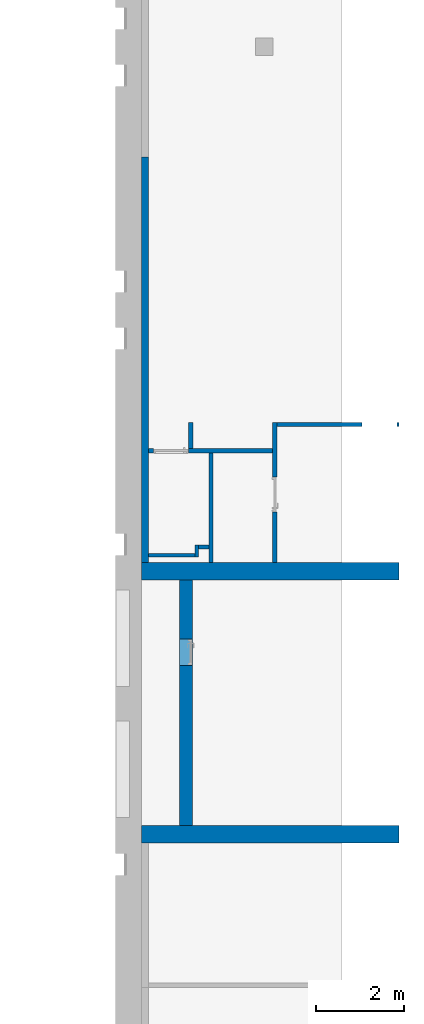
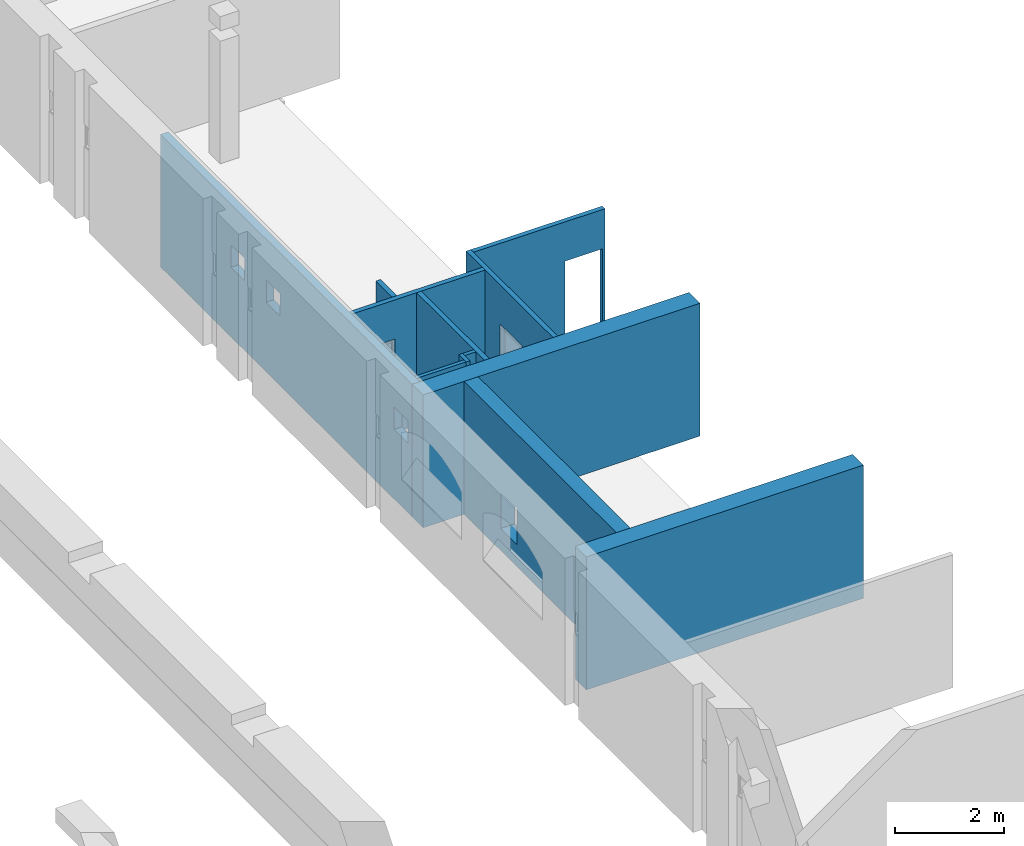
# One storey, part 7 of 11: 12 walls, 19 openings.
"""IFC2X3 building model written with IfcOpenShell, lengths in millimetres."""

from ifc_helpers import new_model, entity, si_unit, converted_unit, derived_unit, direction, frame, frame_2d, origin, origin_2d_with_axis, place, context, subcontext, project, spatial, polyline, circle_curve, parameter, trimmed, segment, composite_curve, rectangle, outline, extrude, clip, bounded_halfspace, material, layer, layer_set, layer_usage, type_object, element, save


model = new_model("IFC2X3")

# Units and contexts
model_context = context("Model", 3, precision=0.01, world=origin(), true_north=direction((6.123031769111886e-17, 1.0)))
body_context = subcontext(model_context, "Body", "Model", "MODEL_VIEW")
ifc_project = project(units=[si_unit("LENGTHUNIT", "METRE", prefix="MILLI"), si_unit("AREAUNIT", "SQUARE_METRE"), si_unit("VOLUMEUNIT", "CUBIC_METRE"), converted_unit("PLANEANGLEUNIT", "DEGREE", entity("IfcPlaneAngleMeasure", 0.017453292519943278), si_unit("PLANEANGLEUNIT", "RADIAN"), dimensions=[0, 0, 0, 0, 0, 0, 0]), si_unit("MASSUNIT", "GRAM", prefix="KILO"), derived_unit("MASSDENSITYUNIT", [(si_unit("MASSUNIT", "GRAM", prefix="KILO"), 1), (si_unit("LENGTHUNIT", "METRE"), -3)]), derived_unit("IONCONCENTRATIONUNIT", [(si_unit("MASSUNIT", "GRAM", prefix="KILO"), 1), (si_unit("LENGTHUNIT", "METRE"), -3)]), derived_unit("MOMENTOFINERTIAUNIT", [(si_unit("LENGTHUNIT", "METRE"), 4)]), si_unit("TIMEUNIT", "SECOND"), si_unit("FREQUENCYUNIT", "HERTZ"), si_unit("THERMODYNAMICTEMPERATUREUNIT", "DEGREE_CELSIUS"), derived_unit("THERMALTRANSMITTANCEUNIT", [(si_unit("MASSUNIT", "GRAM", prefix="KILO"), 1), (si_unit("THERMODYNAMICTEMPERATUREUNIT", "KELVIN"), -1), (si_unit("TIMEUNIT", "SECOND"), -3)]), derived_unit("THERMALCONDUCTANCEUNIT", [(si_unit("MASSUNIT", "GRAM", prefix="KILO"), 1), (si_unit("THERMODYNAMICTEMPERATUREUNIT", "KELVIN"), -1), (si_unit("TIMEUNIT", "SECOND"), -3), (si_unit("LENGTHUNIT", "METRE"), 1)]), derived_unit("VOLUMETRICFLOWRATEUNIT", [(si_unit("LENGTHUNIT", "METRE", prefix="DECI"), 3), (si_unit("TIMEUNIT", "SECOND"), -1)]), derived_unit("MASSFLOWRATEUNIT", [(si_unit("MASSUNIT", "GRAM", prefix="KILO"), 1), (si_unit("TIMEUNIT", "SECOND"), -1)]), derived_unit("ROTATIONALFREQUENCYUNIT", [(si_unit("TIMEUNIT", "SECOND"), -1)]), si_unit("ELECTRICCURRENTUNIT", "AMPERE"), si_unit("ELECTRICVOLTAGEUNIT", "VOLT"), si_unit("POWERUNIT", "WATT"), si_unit("FORCEUNIT", "NEWTON", prefix="KILO"), si_unit("ILLUMINANCEUNIT", "LUX"), si_unit("LUMINOUSFLUXUNIT", "LUMEN"), si_unit("LUMINOUSINTENSITYUNIT", "CANDELA"), si_unit("ENERGYUNIT", "JOULE"), derived_unit("USERDEFINED", [(si_unit("MASSUNIT", "GRAM", prefix="KILO"), -1), (si_unit("LENGTHUNIT", "METRE"), -2), (si_unit("TIMEUNIT", "SECOND"), 3), (si_unit("LUMINOUSFLUXUNIT", "LUMEN"), 1)]), derived_unit("USERDEFINED", [(si_unit("MASSUNIT", "GRAM", prefix="KILO"), 1), (si_unit("TIMEUNIT", "SECOND"), -3), (si_unit("LENGTHUNIT", "METRE"), 3), (si_unit("ELECTRICCURRENTUNIT", "AMPERE"), -2)]), derived_unit("SOUNDPOWERUNIT", [(si_unit("MASSUNIT", "GRAM", prefix="KILO"), 1), (si_unit("TIMEUNIT", "SECOND"), -3), (si_unit("LENGTHUNIT", "METRE"), 2)]), derived_unit("SOUNDPRESSUREUNIT", [(si_unit("MASSUNIT", "GRAM", prefix="KILO"), 1), (si_unit("LENGTHUNIT", "METRE"), -1), (si_unit("TIMEUNIT", "SECOND"), -2)]), derived_unit("LINEARVELOCITYUNIT", [(si_unit("LENGTHUNIT", "METRE"), 1), (si_unit("TIMEUNIT", "SECOND"), -1)]), si_unit("PRESSUREUNIT", "PASCAL"), derived_unit("USERDEFINED", [(si_unit("MASSUNIT", "GRAM", prefix="KILO"), 1), (si_unit("LENGTHUNIT", "METRE"), -2), (si_unit("TIMEUNIT", "SECOND"), -2)]), derived_unit("LINEARFORCEUNIT", [(si_unit("MASSUNIT", "GRAM", prefix="KILO"), 1), (si_unit("TIMEUNIT", "SECOND"), -2)]), derived_unit("PLANARFORCEUNIT", [(si_unit("MASSUNIT", "GRAM", prefix="KILO"), 1), (si_unit("LENGTHUNIT", "METRE"), -1), (si_unit("TIMEUNIT", "SECOND"), -2)]), derived_unit("SPECIFICHEATCAPACITYUNIT", [(si_unit("THERMODYNAMICTEMPERATUREUNIT", "KELVIN"), -1), (si_unit("LENGTHUNIT", "METRE"), 2), (si_unit("TIMEUNIT", "SECOND"), -2)]), derived_unit("HEATFLUXDENSITYUNIT", [(si_unit("MASSUNIT", "GRAM", prefix="KILO"), 1), (si_unit("TIMEUNIT", "SECOND"), -3)]), derived_unit("HEATINGVALUEUNIT", [(si_unit("LENGTHUNIT", "METRE"), 2), (si_unit("TIMEUNIT", "SECOND"), -2)]), derived_unit("VAPORPERMEABILITYUNIT", [(si_unit("LENGTHUNIT", "METRE"), -1), (si_unit("TIMEUNIT", "SECOND"), 1)]), derived_unit("DYNAMICVISCOSITYUNIT", [(si_unit("MASSUNIT", "GRAM", prefix="KILO"), 1), (si_unit("TIMEUNIT", "SECOND"), -1), (si_unit("LENGTHUNIT", "METRE"), -1)]), derived_unit("THERMALEXPANSIONCOEFFICIENTUNIT", [(si_unit("THERMODYNAMICTEMPERATUREUNIT", "KELVIN"), -1)]), derived_unit("MODULUSOFELASTICITYUNIT", [(si_unit("MASSUNIT", "GRAM", prefix="KILO"), 1), (si_unit("LENGTHUNIT", "METRE"), -1), (si_unit("TIMEUNIT", "SECOND"), -2)]), derived_unit("ISOTHERMALMOISTURECAPACITYUNIT", [(si_unit("MASSUNIT", "GRAM", prefix="KILO"), -1), (si_unit("LENGTHUNIT", "METRE"), 3)]), derived_unit("MOISTUREDIFFUSIVITYUNIT", [(si_unit("TIMEUNIT", "SECOND"), -1), (si_unit("LENGTHUNIT", "METRE"), 2)]), derived_unit("MASSPERLENGTHUNIT", [(si_unit("MASSUNIT", "GRAM", prefix="KILO"), 1), (si_unit("LENGTHUNIT", "METRE"), -1)]), derived_unit("THERMALRESISTANCEUNIT", [(si_unit("MASSUNIT", "GRAM", prefix="KILO"), -1), (si_unit("TIMEUNIT", "SECOND"), 3), (si_unit("THERMODYNAMICTEMPERATUREUNIT", "KELVIN"), 1)]), derived_unit("ACCELERATIONUNIT", [(si_unit("LENGTHUNIT", "METRE"), 1), (si_unit("TIMEUNIT", "SECOND"), -2)]), derived_unit("ANGULARVELOCITYUNIT", [(si_unit("TIMEUNIT", "SECOND"), -1), (si_unit("PLANEANGLEUNIT", "RADIAN"), 1)]), derived_unit("LINEARSTIFFNESSUNIT", [(si_unit("MASSUNIT", "GRAM", prefix="KILO"), 1), (si_unit("TIMEUNIT", "SECOND"), -2)]), derived_unit("WARPINGCONSTANTUNIT", [(si_unit("LENGTHUNIT", "METRE"), 6)]), derived_unit("LINEARMOMENTUNIT", [(si_unit("MASSUNIT", "GRAM", prefix="KILO"), 1), (si_unit("LENGTHUNIT", "METRE"), 1), (si_unit("TIMEUNIT", "SECOND"), -2)]), derived_unit("TORQUEUNIT", [(si_unit("MASSUNIT", "GRAM", prefix="KILO"), 1), (si_unit("LENGTHUNIT", "METRE"), 2), (si_unit("TIMEUNIT", "SECOND"), -2)])], contexts=[model_context])

# Site, building, storey
site_placement = place(None, origin())
site = spatial("IfcSite", under=ifc_project, at=site_placement, Name="Default", CompositionType="ELEMENT")
building_placement = place(site_placement, origin())
building = spatial("IfcBuilding", under=site, at=building_placement, Name="Eesti Rahvusraamatukogu hoone renoveerimise projekteerimistööd", CompositionType="ELEMENT")
storey_placement = place(building_placement, frame((0.0, 0.0, -1650.0)))
storey = spatial("IfcBuildingStorey", under=building, at=storey_placement, Name="-1. korrus", CompositionType="ELEMENT", Elevation=-1650.0000000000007)

# Walls
ifc_material_1 = material(Name="ol. olev materjal")
ifc_layer_1 = layer(ifc_material_1, 400.0)
ifc_layer_set_1 = layer_set([ifc_layer_1], Name="Basic Wall:ol. olev - 400mm")
ifc_layer_usage_1 = layer_usage(ifc_layer_set_1, "AXIS2", "NEGATIVE", 200.0)
wall_type_1 = type_object("IfcWallType", Name="Basic Wall:ol. olev - 400mm", PredefinedType="STANDARD", material=ifc_layer_set_1)
wall_1_placement = place(storey_placement, frame((-36190.17342295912, 24430.0, 0.0)))
element("IfcWallStandardCase", 1, at=wall_1_placement, inside=storey, type_object=wall_type_1, material=ifc_layer_usage_1, Name="Basic Wall:ol. olev - 400mm", ObjectType="Basic Wall:ol. olev - 400mm", context=body_context, shape_type="SweptSolid", body=[
    extrude(rectangle(XDim=5880.173422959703, YDim=399.9999999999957, at=frame_2d((2940.0867114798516, -8.526512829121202e-14), x_axis=(-1.0, 0.0))), origin(), (0.0, 0.0, 1.0), 2985.0000000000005),
])
ifc_layer_usage_2 = layer_usage(ifc_layer_set_1, "AXIS2", "NEGATIVE", 200.0)
wall_2_placement = place(storey_placement, frame((-36190.17342295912, 30430.0, 0.0)))
element("IfcWallStandardCase", 2, at=wall_2_placement, inside=storey, type_object=wall_type_1, material=ifc_layer_usage_2, Name="Basic Wall:ol. olev - 400mm", ObjectType="Basic Wall:ol. olev - 400mm", context=body_context, shape_type="SweptSolid", body=[
    extrude(rectangle(XDim=5880.173422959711, YDim=399.9999999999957, at=frame_2d((2940.0867114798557, 1.2789769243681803e-13), x_axis=(-1.0, 0.0))), origin(), (0.0, 0.0, 1.0), 2980.0000000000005),
])

# Wall, opening
ifc_material_2 = material(Name="EST. Müüritis. Väikeplokk. Poorbetoonplokk")
ifc_layer_2 = layer(ifc_material_2, 100.0)
ifc_layer_set_2 = layer_set([ifc_layer_2], Name="Basic Wall:SS-70 - 100 poorbetoon")
ifc_layer_usage_3 = layer_usage(ifc_layer_set_2, "AXIS2", "NEGATIVE", 50.0)
wall_type_2 = type_object("IfcWallType", Name="Basic Wall:SS-70 - 100 poorbetoon", PredefinedType="STANDARD", material=ifc_layer_set_2)
wall_3_placement = place(storey_placement, frame((-36025.17342295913, 33175.44029192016, 0.0)))
wall_3 = element("IfcWallStandardCase", 3, at=wall_3_placement, inside=storey, type_object=wall_type_2, material=ifc_layer_usage_3, Name="Basic Wall:SS-70 - 100 poorbetoon", ObjectType="Basic Wall:SS-70 - 100 poorbetoon", context=body_context, shape_type="Clipping", body=[
    clip(extrude(rectangle(XDim=2824.749790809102, YDim=100.00000000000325, at=frame_2d((1412.374895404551, -7.105427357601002e-15), x_axis=(-1.0, 0.0))), origin(), (0.0, 0.0, 1.0), 2980.000000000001), bounded_halfspace(frame((0.0, -50.0, 2980.0), z_axis=(0.0, 0.0, 1.0), x_axis=(0.0, -1.0, 0.0)), False, frame((0.0, -50.0, 2980.0)), polyline([(0.0, 0.0), (1371.5763678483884, 0.0), (1471.5763678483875, 0.0), (2824.7497908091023, 0.0), (2824.749790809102, 100.0), (1010.0, 100.0), (910.0, 100.0), (0.0, 100.0), (0.0, 0.0)]))),
])
opening_1_placement = place(wall_3_placement, frame((110.0, -50.0, 0.0)))
element("IfcOpeningElement", 4, at=opening_1_placement, cuts=wall_3, Name="SMA_D01, 1-poolne:SU-00 - puituks 800x2100 ventil. lävepakuga:1", ObjectType="Opening", context=body_context, shape_type="SweptSolid", body=[
    extrude(rectangle(XDim=2099.999999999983, YDim=799.9999999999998, at=frame_2d((1049.9999999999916, 400.0000000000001), x_axis=(1.0, 0.0))), frame((0.0, 0.0, 0.0), z_axis=(0.0, 1.0, 0.0), x_axis=(0.0, 0.0, 1.0)), (0.0, 0.0, 1.0), 100.0),
])

ifc_layer_usage_4 = layer_usage(ifc_layer_set_2, "AXIS2", "NEGATIVE", 50.0)
wall_4_placement = place(storey_placement, frame((-33150.42363215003, 33825.44029192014, 0.0), z_axis=(0.0, 0.0, 1.0), x_axis=(0.0, -1.0, 0.0)))
wall_4 = element("IfcWallStandardCase", 5, at=wall_4_placement, inside=storey, type_object=wall_type_2, material=ifc_layer_usage_4, Name="Basic Wall:SS-70 - 100 poorbetoon", ObjectType="Basic Wall:SS-70 - 100 poorbetoon", context=body_context, shape_type="Clipping", body=[
    clip(extrude(rectangle(XDim=3195.4402919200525, YDim=100.00000000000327, at=frame_2d((1597.7201459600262, 6.110667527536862e-13), x_axis=(-1.0, 0.0))), origin(), (0.0, 0.0, 1.0), 2980.0000000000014), bounded_halfspace(frame((0.0, -50.0, 2980.0)), False, frame((0.0, -50.0, 2980.0)), polyline([(0.0, 0.0), (600.0, 0.0), (700.0, 0.0), (3195.440291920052, 0.0), (3195.4402919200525, 100.0), (100.0, 100.0), (0.0, 100.0), (0.0, 0.0)]))),
])
opening_2_placement = place(wall_4_placement, frame((1250.0, -50.0, 0.0)))
element("IfcOpeningElement", 6, at=opening_2_placement, cuts=wall_4, Name="SMA_D01, 1-poolne:SU-00 - 800x2100:1", ObjectType="Opening", context=body_context, shape_type="SweptSolid", body=[
    extrude(rectangle(XDim=2099.999999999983, YDim=799.9999999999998, at=frame_2d((1049.9999999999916, 400.0000000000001), x_axis=(1.0, 0.0))), frame((0.0, 0.0, 0.0), z_axis=(0.0, 1.0, 0.0), x_axis=(0.0, 0.0, 1.0)), (0.0, 0.0, 1.0), 100.0),
])

ifc_layer_usage_5 = layer_usage(ifc_layer_set_2, "AXIS2", "NEGATIVE", 50.0)
wall_5_placement = place(storey_placement, frame((-33100.42363215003, 33775.44029192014, 0.0)))
wall_5 = element("IfcWallStandardCase", 7, at=wall_5_placement, inside=storey, type_object=wall_type_2, material=ifc_layer_usage_5, Name="Basic Wall:SS-70 - 100 poorbetoon", ObjectType="Basic Wall:SS-70 - 100 poorbetoon", context=body_context, shape_type="Clipping", body=[
    clip(extrude(rectangle(XDim=2790.423632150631, YDim=100.00000000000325, at=frame_2d((1395.2118160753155, -9.237055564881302e-14), x_axis=(-1.0, 0.0))), origin(), (0.0, 0.0, 1.0), 2980.0000000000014), bounded_halfspace(frame((0.0, -50.0, 2980.0), z_axis=(0.0, 0.0, 1.0), x_axis=(0.0, -1.0, 0.0)), False, frame((0.0, -50.0, 2980.0)), polyline([(0.0, 0.0), (2790.423632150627, 0.0), (2790.4236321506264, 100.0), (0.0, 100.0), (0.0, 0.0)]))),
])
opening_3_placement = place(wall_5_placement, frame((33100.42363215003, -33775.44029192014, 0.0)))
element("IfcOpeningElement", 8, at=opening_3_placement, cuts=wall_5, Name="Basic Wall:SS-70 - 100 poorbetoon", ObjectType="Opening", context=body_context, shape_type="SweptSolid", body=[
    extrude(rectangle(XDim=2099.999999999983, YDim=800.0, at=frame_2d((0.0, 0.0), x_axis=(0.0, 1.0))), frame((-30760.0, 32301.440291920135, 1050.0), z_axis=(0.0, 1.0, 0.0), x_axis=(-1.0, 0.0, 0.0)), (0.0, 0.0, 1.0), 3048.0),
])

# Walls
ifc_layer_usage_6 = layer_usage(ifc_layer_set_2, "AXIS2", "NEGATIVE", 50.0)
wall_6_placement = place(storey_placement, frame((-34603.597055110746, 33125.44029192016, 0.0), z_axis=(0.0, 0.0, 1.0), x_axis=(0.0, -1.0, 0.0)))
element("IfcWallStandardCase", 9, at=wall_6_placement, inside=storey, type_object=wall_type_2, material=ifc_layer_usage_6, Name="Basic Wall:SS-70 - 100 poorbetoon", ObjectType="Basic Wall:SS-70 - 100 poorbetoon", context=body_context, shape_type="Clipping", body=[
    clip(extrude(rectangle(XDim=2495.4402919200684, YDim=100.00000000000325, at=frame_2d((1247.7201459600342, 0.0), x_axis=(-1.0, 0.0))), origin(), (0.0, 0.0, 1.0), 2980.0000000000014), bounded_halfspace(frame((0.0, -50.0, 2980.0)), False, frame((0.0, -50.0, 2980.0)), polyline([(0.0, 0.0), (2105.440291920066, 0.0), (2185.440291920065, 0.0), (2495.4402919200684, 0.0), (2495.4402919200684, 100.0), (0.0, 100.0), (0.0, 0.0)]))),
])
ifc_layer_usage_7 = layer_usage(ifc_layer_set_2, "AXIS2", "NEGATIVE", 50.0)
wall_7_placement = place(storey_placement, frame((-35065.173422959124, 33225.44029192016, 0.0), z_axis=(0.0, 0.0, 1.0), x_axis=(0.0, 1.0, 0.0)))
element("IfcWallStandardCase", 10, at=wall_7_placement, inside=storey, type_object=wall_type_2, material=ifc_layer_usage_7, Name="Basic Wall:SS-70 - 100 poorbetoon", ObjectType="Basic Wall:SS-70 - 100 poorbetoon", context=body_context, shape_type="Clipping", body=[
    clip(extrude(rectangle(XDim=599.9999999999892, YDim=100.00000000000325, at=frame_2d((299.9999999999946, 0.0), x_axis=(-1.0, 0.0))), origin(), (0.0, 0.0, 1.0), 2980.000000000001), bounded_halfspace(frame((0.0, -50.0, 2980.0), z_axis=(0.0, 0.0, 1.0), x_axis=(-1.0, 0.0, 0.0)), False, frame((0.0, -50.0, 2980.0)), polyline([(0.0, 0.0), (600.0, 0.0), (600.0, 100.0), (0.0, 100.0), (0.0, 0.0)]))),
])

# Wall, openings
ifc_material_3 = material(Name="EST. Ehitusplaat. Kipsplaat")
ifc_layer_3 = layer(ifc_material_3, 14.0)
ifc_material_4 = material(Name="EST. Ehitusplaat. OSB")
ifc_layer_4 = layer(ifc_material_4, 15.0)
ifc_material_5 = material(Name="EST. Õhkvahe. Roov. Kipsplaadi alusroov. Vertikaalne")
ifc_layer_5 = layer(ifc_material_5, 66.0)
ifc_material_6 = material(Name="EST. Soojustus.PIR. Default")
ifc_layer_6 = layer(ifc_material_6, 70.0)
ifc_layer_set_3 = layer_set([ifc_layer_3, ifc_layer_4, ifc_layer_5, ifc_layer_6], Name="Basic Wall:VS-01 - 165 sooj. mitte läbiv")
ifc_layer_usage_8 = layer_usage(ifc_layer_set_3, "AXIS2", "NEGATIVE", 82.49999999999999)
wall_type_3 = type_object("IfcWallType", Name="Basic Wall:VS-01 - 165 sooj. mitte läbiv", PredefinedType="STANDARD", material=ifc_layer_set_3)
wall_8_placement = place(storey_placement, frame((-36107.67342295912, 39874.691422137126, 0.0), z_axis=(0.0, 0.0, 1.0), x_axis=(0.0, -1.0, 0.0)))
wall_8 = element("IfcWallStandardCase", 11, at=wall_8_placement, inside=storey, type_object=wall_type_3, material=ifc_layer_usage_8, Name="Basic Wall:VS-01 - 165 sooj. mitte läbiv", ObjectType="Basic Wall:VS-01 - 165 sooj. mitte läbiv", context=body_context, shape_type="SweptSolid", body=[
    extrude(rectangle(XDim=9244.69142213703, YDim=165.00000000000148, at=frame_2d((4622.345711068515, -2.5934809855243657e-12), x_axis=(-1.0, 0.0))), origin(), (0.0, 0.0, 1.0), 2980.0000000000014),
])
opening_4_placement = place(wall_8_placement, frame((15066.286694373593, -234.90000000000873, 1420.0)))
element("IfcOpeningElement", 12, at=opening_4_placement, cuts=wall_8, Name="Basic Wall:VS-01 - 165 sooj. mitte läbiv", ObjectType="Opening", context=body_context, shape_type="SweptSolid", body=[
    extrude(outline(composite_curve([segment(polyline([(-530.3896667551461, -1100.0), (529.6103332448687, -1100.0)]), True, "CONTINUOUS"), segment(trimmed(circle_curve(frame_2d((-913.267637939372, 1.0228095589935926), x_axis=(0.0, -1.0)), 1814.9788061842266), [parameter(52.653685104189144)], [parameter(127.26512850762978)], True, "PARAMETER"), True, "CONTINUOUS"), segment(polyline([(531.1690002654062, 1100.0), (-530.3896667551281, 1100.0)]), True, "CONTINUOUS"), segment(polyline([(-530.3896667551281, 1100.0), (-530.3896667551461, -1100.0)]), True, "CONTINUOUS")], self_intersect=False)), frame((-1101.5952722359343, 0.0, 530.3896667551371), z_axis=(0.0, 1.0, 0.0), x_axis=(0.0, 0.0, 1.0)), (0.0, 0.0, 1.0), 469.8000000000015),
])
opening_5_placement = place(wall_8_placement, frame((12077.652353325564, -234.90000000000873, 1420.0)))
element("IfcOpeningElement", 13, at=opening_5_placement, cuts=wall_8, Name="Basic Wall:VS-01 - 165 sooj. mitte läbiv", ObjectType="Opening", context=body_context, shape_type="SweptSolid", body=[
    extrude(outline(composite_curve([segment(polyline([(-530.3896667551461, -1100.0), (529.6103332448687, -1100.0)]), True, "CONTINUOUS"), segment(trimmed(circle_curve(frame_2d((-913.267637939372, 1.0228095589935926), x_axis=(0.0, -1.0)), 1814.9788061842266), [parameter(52.653685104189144)], [parameter(127.26512850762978)], True, "PARAMETER"), True, "CONTINUOUS"), segment(polyline([(531.1690002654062, 1100.0), (-530.3896667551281, 1100.0)]), True, "CONTINUOUS"), segment(polyline([(-530.3896667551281, 1100.0), (-530.3896667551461, -1100.0)]), True, "CONTINUOUS")], self_intersect=False)), frame((-1101.5952722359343, 0.0, 530.3896667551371), z_axis=(0.0, 1.0, 0.0), x_axis=(0.0, 0.0, 1.0)), (0.0, 0.0, 1.0), 469.8000000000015),
])
opening_6_placement = place(wall_8_placement, frame((39874.69142213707, 36107.67342295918, 1565.0)))
element("IfcOpeningElement", 14, at=opening_6_placement, cuts=wall_8, Name="Basic Wall:VS-01 - 165 sooj. mitte läbiv", ObjectType="Opening", context=body_context, shape_type="SweptSolid", body=[
    extrude(rectangle(XDim=499.9999999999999, YDim=499.999999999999, at=frame_2d((-4.334310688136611e-12, 0.0), x_axis=(0.0, 1.0))), frame((-47740.0, -37714.173422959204, 250.0), z_axis=(0.0, 1.0, 0.0), x_axis=(-1.0, 0.0, 0.0)), (0.0, 0.0, 1.0), 3048.0),
])
opening_7_placement = place(wall_8_placement, frame((39874.69142213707, 36107.67342295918, 1565.0)))
element("IfcOpeningElement", 15, at=opening_7_placement, cuts=wall_8, Name="Basic Wall:VS-01 - 165 sooj. mitte läbiv", ObjectType="Opening", context=body_context, shape_type="SweptSolid", body=[
    extrude(rectangle(XDim=499.9999999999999, YDim=499.999999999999, at=frame_2d((0.0, -4.334310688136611e-12), x_axis=(1.0, 0.0))), frame((-43040.0, -37714.17342295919, 250.0), z_axis=(0.0, 1.0, 0.0), x_axis=(0.0, 0.0, 1.0)), (0.0, 0.0, 1.0), 3048.0),
])
opening_8_placement = place(wall_8_placement, frame((39874.69142213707, 36107.67342295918, 1565.0)))
element("IfcOpeningElement", 16, at=opening_8_placement, cuts=wall_8, Name="Basic Wall:VS-01 - 165 sooj. mitte läbiv", ObjectType="Opening", context=body_context, shape_type="SweptSolid", body=[
    extrude(rectangle(XDim=499.9999999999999, YDim=499.999999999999, at=frame_2d((-4.334310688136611e-12, 0.0), x_axis=(0.0, 1.0))), frame((-41740.0, -37714.17342295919, 250.0), z_axis=(0.0, 1.0, 0.0), x_axis=(-1.0, 0.0, 0.0)), (0.0, 0.0, 1.0), 3048.0),
])
opening_9_placement = place(wall_8_placement, frame((39874.69142213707, 36107.67342295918, 1565.0)))
element("IfcOpeningElement", 17, at=opening_9_placement, cuts=wall_8, Name="Basic Wall:VS-01 - 165 sooj. mitte läbiv", ObjectType="Opening", context=body_context, shape_type="SweptSolid", body=[
    extrude(rectangle(XDim=499.9999999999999, YDim=499.999999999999, at=origin_2d_with_axis()), frame((-37040.0, -37714.17342295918, 250.0), z_axis=(0.0, 1.0, 0.0), x_axis=(0.0, 0.0, 1.0)), (0.0, 0.0, 1.0), 3048.0),
])
opening_10_placement = place(wall_8_placement, frame((39874.69142213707, 36107.67342295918, 1565.0)))
element("IfcOpeningElement", 18, at=opening_10_placement, cuts=wall_8, Name="Basic Wall:VS-01 - 165 sooj. mitte läbiv", ObjectType="Opening", context=body_context, shape_type="SweptSolid", body=[
    extrude(rectangle(XDim=499.9999999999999, YDim=499.999999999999, at=frame_2d((0.0, 0.0), x_axis=(0.0, 1.0))), frame((-35740.0, -37714.17342295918, 250.0), z_axis=(0.0, 1.0, 0.0), x_axis=(-1.0, 0.0, 0.0)), (0.0, 0.0, 1.0), 3048.0),
])
opening_11_placement = place(wall_8_placement, frame((39874.69142213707, 36107.67342295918, 1565.0)))
element("IfcOpeningElement", 19, at=opening_11_placement, cuts=wall_8, Name="Basic Wall:VS-01 - 165 sooj. mitte läbiv", ObjectType="Opening", context=body_context, shape_type="SweptSolid", body=[
    extrude(rectangle(XDim=499.9999999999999, YDim=499.999999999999, at=origin_2d_with_axis()), frame((-31040.0, -37714.17342295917, 250.0), z_axis=(0.0, 1.0, 0.0), x_axis=(0.0, 0.0, 1.0)), (0.0, 0.0, 1.0), 3048.0),
])
opening_12_placement = place(wall_8_placement, frame((39874.69142213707, 36107.67342295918, 1565.0)))
element("IfcOpeningElement", 20, at=opening_12_placement, cuts=wall_8, Name="Basic Wall:VS-01 - 165 sooj. mitte läbiv", ObjectType="Opening", context=body_context, shape_type="SweptSolid", body=[
    extrude(rectangle(XDim=499.9999999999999, YDim=499.999999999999, at=origin_2d_with_axis()), frame((-19040.0, -37714.17342295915, 250.0), z_axis=(0.0, 1.0, 0.0), x_axis=(0.0, 0.0, 1.0)), (0.0, 0.0, 1.0), 3048.0),
])
opening_13_placement = place(wall_8_placement, frame((39874.69142213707, 36107.67342295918, 1565.0)))
element("IfcOpeningElement", 21, at=opening_13_placement, cuts=wall_8, Name="Basic Wall:VS-01 - 165 sooj. mitte läbiv", ObjectType="Opening", context=body_context, shape_type="SweptSolid", body=[
    extrude(rectangle(XDim=499.9999999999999, YDim=500.00000000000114, at=frame_2d((-1.0800249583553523e-12, 0.0), x_axis=(0.0, 1.0))), frame((-17740.0, -37714.17342295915, 250.0), z_axis=(0.0, 1.0, 0.0), x_axis=(-1.0, 0.0, 0.0)), (0.0, 0.0, 1.0), 3048.0),
])
opening_14_placement = place(wall_8_placement, frame((39874.69142213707, 36107.67342295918, 1565.0)))
element("IfcOpeningElement", 22, at=opening_14_placement, cuts=wall_8, Name="Basic Wall:VS-01 - 165 sooj. mitte läbiv", ObjectType="Opening", context=body_context, shape_type="SweptSolid", body=[
    extrude(rectangle(XDim=499.9999999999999, YDim=499.999999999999, at=origin_2d_with_axis()), frame((-13040.0, -37714.17342295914, 250.0), z_axis=(0.0, 1.0, 0.0), x_axis=(0.0, 0.0, 1.0)), (0.0, 0.0, 1.0), 3048.0),
])
opening_15_placement = place(wall_8_placement, frame((39874.69142213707, 36107.67342295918, 1565.0)))
element("IfcOpeningElement", 23, at=opening_15_placement, cuts=wall_8, Name="Basic Wall:VS-01 - 165 sooj. mitte läbiv", ObjectType="Opening", context=body_context, shape_type="SweptSolid", body=[
    extrude(rectangle(XDim=499.9999999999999, YDim=500.00000000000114, at=frame_2d((1.0800249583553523e-12, 0.0), x_axis=(0.0, 1.0))), frame((-11740.0, -37714.17342295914, 250.0), z_axis=(0.0, 1.0, 0.0), x_axis=(-1.0, 0.0, 0.0)), (0.0, 0.0, 1.0), 3048.0),
])
opening_16_placement = place(wall_8_placement, frame((39874.69142213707, 36107.67342295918, 1565.0)))
element("IfcOpeningElement", 24, at=opening_16_placement, cuts=wall_8, Name="Basic Wall:VS-01 - 165 sooj. mitte läbiv", ObjectType="Opening", context=body_context, shape_type="SweptSolid", body=[
    extrude(rectangle(XDim=499.9999999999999, YDim=500.00000000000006, at=frame_2d((0.0, 5.400124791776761e-13), x_axis=(1.0, 0.0))), frame((-7040.0, -37714.17342295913, 250.0), z_axis=(0.0, 1.0, 0.0), x_axis=(0.0, 0.0, 1.0)), (0.0, 0.0, 1.0), 3048.0),
])
opening_17_placement = place(wall_8_placement, frame((39874.69142213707, 36107.67342295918, 1565.0)))
element("IfcOpeningElement", 25, at=opening_17_placement, cuts=wall_8, Name="Basic Wall:VS-01 - 165 sooj. mitte läbiv", ObjectType="Opening", context=body_context, shape_type="SweptSolid", body=[
    extrude(rectangle(XDim=499.9999999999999, YDim=499.999999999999, at=frame_2d((1.4210854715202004e-14, 0.0), x_axis=(1.0, 0.0))), frame((-23740.0, -37714.17342295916, 250.0), z_axis=(0.0, 1.0, 0.0), x_axis=(0.0, 0.0, 1.0)), (0.0, 0.0, 1.0), 3048.0),
])
opening_18_placement = place(wall_8_placement, frame((39874.69142213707, 36107.67342295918, 1650.0)))
element("IfcOpeningElement", 26, at=opening_18_placement, cuts=wall_8, Name="Basic Wall:VS-01 - 165 sooj. mitte läbiv", ObjectType="Opening", context=body_context, shape_type="SweptSolid", body=[
    extrude(rectangle(XDim=3600.000000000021, YDim=499.999999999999, at=origin_2d_with_axis()), frame((-7040.0, -36790.0, 150.0), z_axis=(0.0, 1.0, 0.0), x_axis=(0.0, 0.0, -1.0)), (0.0, 0.0, 1.0), 199.99999999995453),
    extrude(rectangle(XDim=3600.000000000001, YDim=499.999999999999, at=frame_2d((0.0, -4.334310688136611e-12), x_axis=(1.0, 0.0))), frame((-47740.0, -36790.0, 150.0), z_axis=(0.0, 1.0, 0.0), x_axis=(0.0, 0.0, -1.0)), (0.0, 0.0, 1.0), 199.99999999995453),
    extrude(rectangle(XDim=3599.9999999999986, YDim=499.999999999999, at=frame_2d((0.0, -4.334310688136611e-12), x_axis=(1.0, 0.0))), frame((-43040.0, -36790.0, 150.0), z_axis=(0.0, 1.0, 0.0), x_axis=(0.0, 0.0, -1.0)), (0.0, 0.0, 1.0), 199.99999999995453),
    extrude(rectangle(XDim=3600.0000000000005, YDim=499.999999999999, at=frame_2d((2.2737367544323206e-13, -4.334310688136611e-12), x_axis=(1.0, 0.0))), frame((-41740.0, -36790.0, 150.0), z_axis=(0.0, 1.0, 0.0), x_axis=(0.0, 0.0, -1.0)), (0.0, 0.0, 1.0), 199.99999999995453),
    extrude(rectangle(XDim=3599.999999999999, YDim=499.999999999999, at=origin_2d_with_axis()), frame((-37040.0, -36790.0, 150.0), z_axis=(0.0, 1.0, 0.0), x_axis=(0.0, 0.0, -1.0)), (0.0, 0.0, 1.0), 199.99999999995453),
    extrude(rectangle(XDim=3599.999999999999, YDim=499.999999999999, at=origin_2d_with_axis()), frame((-35740.0, -36790.0, 150.0), z_axis=(0.0, 1.0, 0.0), x_axis=(0.0, 0.0, -1.0)), (0.0, 0.0, 1.0), 199.99999999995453),
    extrude(rectangle(XDim=3599.9999999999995, YDim=499.999999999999, at=frame_2d((-2.2737367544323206e-13, 0.0), x_axis=(1.0, 0.0))), frame((-31040.0, -36790.0, 150.0), z_axis=(0.0, 1.0, 0.0), x_axis=(0.0, 0.0, -1.0)), (0.0, 0.0, 1.0), 199.99999999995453),
    extrude(rectangle(XDim=3600.000000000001, YDim=499.999999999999, at=origin_2d_with_axis()), frame((-23740.0, -36790.0, 150.0), z_axis=(0.0, 1.0, 0.0), x_axis=(0.0, 0.0, -1.0)), (0.0, 0.0, 1.0), 199.99999999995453),
    extrude(rectangle(XDim=3600.0000000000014, YDim=500.0000000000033, at=frame_2d((-2.2737367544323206e-13, 2.1600499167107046e-12), x_axis=(1.0, 0.0))), frame((-19040.0, -36790.0, 150.0), z_axis=(0.0, 1.0, 0.0), x_axis=(0.0, 0.0, -1.0)), (0.0, 0.0, 1.0), 199.99999999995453),
    extrude(rectangle(XDim=3600.000000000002, YDim=499.999999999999, at=origin_2d_with_axis()), frame((-17740.0, -36790.0, 150.0), z_axis=(0.0, 1.0, 0.0), x_axis=(0.0, 0.0, -1.0)), (0.0, 0.0, 1.0), 199.99999999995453),
    extrude(rectangle(XDim=3600.0000000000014, YDim=500.0000000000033, at=origin_2d_with_axis()), frame((-13040.0, -36790.0, 150.0), z_axis=(0.0, 1.0, 0.0), x_axis=(0.0, 0.0, -1.0)), (0.0, 0.0, 1.0), 199.99999999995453),
    extrude(rectangle(XDim=3600.0000000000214, YDim=499.999999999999, at=origin_2d_with_axis()), frame((-11740.0, -36790.0, 150.0), z_axis=(0.0, 1.0, 0.0), x_axis=(0.0, 0.0, -1.0)), (0.0, 0.0, 1.0), 199.99999999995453),
])

# Walls
ifc_layer_7 = layer(ifc_material_3, 13.000000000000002)
ifc_layer_8 = layer(ifc_material_5, 67.0)
ifc_layer_set_4 = layer_set([ifc_layer_7, ifc_layer_8], Name="Basic Wall:SS-57 - 80 kergsein wc")
ifc_layer_usage_9 = layer_usage(ifc_layer_set_4, "AXIS2", "NEGATIVE", 39.99999999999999)
wall_type_4 = type_object("IfcWallType", Name="Basic Wall:SS-57 - 80 kergsein wc", PredefinedType="STANDARD", material=ifc_layer_set_4)
wall_9_placement = place(storey_placement, frame((-36025.17342295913, 30790.0, 0.0)))
element("IfcWallStandardCase", 27, at=wall_9_placement, inside=storey, type_object=wall_type_4, material=ifc_layer_usage_9, Name="Basic Wall:SS-57 - 80 kergsein wc", ObjectType="Basic Wall:SS-57 - 80 kergsein wc", context=body_context, shape_type="Clipping", body=[
    clip(extrude(rectangle(XDim=1051.5763678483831, YDim=79.99999999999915, at=frame_2d((525.7881839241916, -5.186961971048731e-13), x_axis=(-1.0, 0.0))), origin(), (0.0, 0.0, 1.0), 2980.000000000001), bounded_halfspace(frame((0.0, -40.0, 2980.0), z_axis=(0.0, 0.0, 1.0), x_axis=(0.0, -1.0, 0.0)), False, frame((0.0, -40.0, 2980.0)), polyline([(0.0, 0.0), (1051.5763678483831, 0.0), (1051.576367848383, 80.0), (0.0, 80.0), (0.0, 0.0)]))),
])
ifc_layer_usage_10 = layer_usage(ifc_layer_set_4, "AXIS2", "POSITIVE", -39.99999999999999)
wall_10_placement = place(storey_placement, frame((-34653.597055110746, 30980.0, 0.0), z_axis=(0.0, 0.0, 1.0), x_axis=(-1.0, 0.0, 0.0)))
element("IfcWallStandardCase", 28, at=wall_10_placement, inside=storey, type_object=wall_type_4, material=ifc_layer_usage_10, Name="Basic Wall:SS-57 - 80 kergsein wc", ObjectType="Basic Wall:SS-57 - 80 kergsein wc", context=body_context, shape_type="SweptSolid", body=[
    extrude(rectangle(XDim=240.00000000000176, YDim=79.99999999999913, at=frame_2d((120.00000000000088, 0.0), x_axis=(-1.0, 0.0))), origin(), (0.0, 0.0, 1.0), 2980.000000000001),
])
ifc_layer_usage_11 = layer_usage(ifc_layer_set_4, "AXIS2", "POSITIVE", -39.99999999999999)
wall_11_placement = place(storey_placement, frame((-34933.597055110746, 31020.0, 0.0), z_axis=(0.0, 0.0, 1.0), x_axis=(0.0, -1.0, 0.0)))
element("IfcWallStandardCase", 29, at=wall_11_placement, inside=storey, type_object=wall_type_4, material=ifc_layer_usage_11, Name="Basic Wall:SS-57 - 80 kergsein wc", ObjectType="Basic Wall:SS-57 - 80 kergsein wc", context=body_context, shape_type="SweptSolid", body=[
    extrude(rectangle(XDim=269.99999999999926, YDim=79.99999999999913, at=frame_2d((134.99999999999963, 0.0), x_axis=(-1.0, 0.0))), origin(), (0.0, 0.0, 1.0), 2980.0000000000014),
])

# Wall, opening
ifc_material_7 = material(Name="EST. Soojustus. EPS")
ifc_layer_9 = layer(ifc_material_7, 150.0)
ifc_layer_10 = layer(ifc_material_2, 150.0)
ifc_layer_set_5 = layer_set([ifc_layer_9, ifc_layer_10], Name="Basic Wall:VS-13.1 - 300 poorbetoon + EPS")
ifc_layer_usage_12 = layer_usage(ifc_layer_set_5, "AXIS2", "POSITIVE", -149.99999999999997)
wall_type_5 = type_object("IfcWallType", Name="Basic Wall:VS-13.1 - 300 poorbetoon + EPS", PredefinedType="STANDARD", material=ifc_layer_set_5)
wall_12_placement = place(storey_placement, frame((-35170.0, 30230.0, 0.0), z_axis=(0.0, 0.0, 1.0), x_axis=(0.0, -1.0, 0.0)))
wall_12 = element("IfcWallStandardCase", 30, at=wall_12_placement, inside=storey, type_object=wall_type_5, material=ifc_layer_usage_12, Name="Basic Wall:VS-13.1 - 300 poorbetoon + EPS", ObjectType="Basic Wall:VS-13.1 - 300 poorbetoon + EPS", context=body_context, shape_type="Clipping", body=[
    clip(extrude(rectangle(XDim=5599.999999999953, YDim=300.0000000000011, at=frame_2d((2799.9999999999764, 0.0), x_axis=(-1.0, 0.0))), origin(), (0.0, 0.0, 1.0), 2980.0000000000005), bounded_halfspace(frame((0.0, -150.0, 2980.0)), False, frame((0.0, -150.0, 2980.0)), polyline([(0.0, 0.0), (5600.0, 0.0), (5600.0, 300.0), (0.0, 300.0), (0.0, 0.0)]))),
])
opening_19_placement = place(wall_12_placement, frame((1350.0, -150.0, 500.0)))
element("IfcOpeningElement", 31, at=opening_19_placement, cuts=wall_12, Name="SMA_D01, 1-poolne:HLU-03 - 600x800mm:1", ObjectType="Opening", context=body_context, shape_type="SweptSolid", body=[
    extrude(rectangle(XDim=799.9999999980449, YDim=600.0, at=frame_2d((399.99999999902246, 300.0), x_axis=(1.0, 0.0))), frame((0.0, 0.0, 0.0), z_axis=(0.0, 1.0, 0.0), x_axis=(0.0, 0.0, 1.0)), (0.0, 0.0, 1.0), 299.99999999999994),
])

save(model, "model.ifc")
